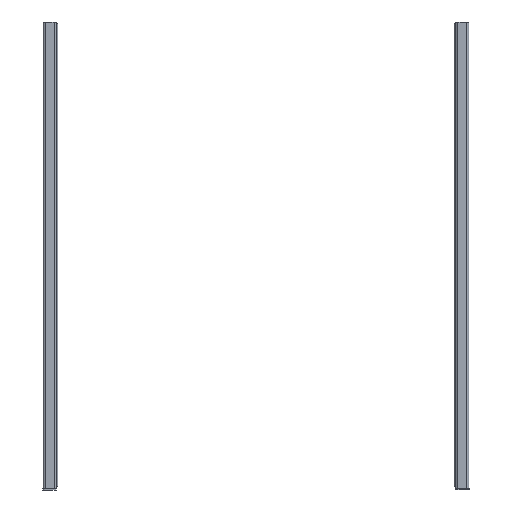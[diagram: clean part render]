
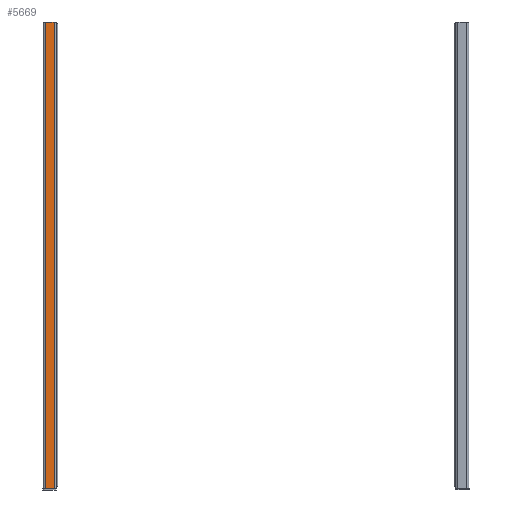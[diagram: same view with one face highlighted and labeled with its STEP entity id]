
A CAD part, front view. The second image highlights one B-rep face of the part: STEP entity #5669.
In plain terms, the highlighted planar face has unit normal (0, -1, 0).
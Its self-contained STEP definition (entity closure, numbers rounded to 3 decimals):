
#182=PLANE('',#6170);
#379=FACE_OUTER_BOUND('',#678,.T.);
#678=EDGE_LOOP('',(#4033,#4034,#4035,#4036));
#1100=LINE('',#8679,#1669);
#1101=LINE('',#8682,#1670);
#1102=LINE('',#8684,#1671);
#1103=LINE('',#8685,#1672);
#1669=VECTOR('',#7019,10.);
#1670=VECTOR('',#7022,10.);
#1671=VECTOR('',#7023,10.);
#1672=VECTOR('',#7024,10.);
#2458=VERTEX_POINT('',#8673);
#2460=VERTEX_POINT('',#8677);
#2461=VERTEX_POINT('',#8681);
#2462=VERTEX_POINT('',#8683);
#3078=EDGE_CURVE('',#2458,#2460,#1100,.T.);
#3079=EDGE_CURVE('',#2461,#2460,#1101,.T.);
#3080=EDGE_CURVE('',#2461,#2462,#1102,.T.);
#3081=EDGE_CURVE('',#2458,#2462,#1103,.T.);
#4033=ORIENTED_EDGE('',*,*,#3078,.T.);
#4034=ORIENTED_EDGE('',*,*,#3079,.F.);
#4035=ORIENTED_EDGE('',*,*,#3080,.T.);
#4036=ORIENTED_EDGE('',*,*,#3081,.F.);
#5669=ADVANCED_FACE('',(#379),#182,.T.);
#6170=AXIS2_PLACEMENT_3D('',#8680,#7020,#7021);
#7019=DIRECTION('',(0.,0.,1.));
#7020=DIRECTION('center_axis',(0.,-1.,0.));
#7021=DIRECTION('ref_axis',(-1.,0.,0.));
#7022=DIRECTION('',(1.,0.,0.));
#7023=DIRECTION('',(0.,0.,-1.));
#7024=DIRECTION('',(-1.,0.,0.));
#8673=CARTESIAN_POINT('',(9.5,-22.,-398.5));
#8677=CARTESIAN_POINT('',(9.5,-22.,0.));
#8679=CARTESIAN_POINT('',(9.5,-22.,0.));
#8680=CARTESIAN_POINT('Origin',(11.5,-22.,0.));
#8681=CARTESIAN_POINT('',(2.,-22.,0.));
#8682=CARTESIAN_POINT('',(0.,-22.,0.));
#8683=CARTESIAN_POINT('',(2.,-22.,-398.5));
#8684=CARTESIAN_POINT('',(2.,-22.,0.));
#8685=CARTESIAN_POINT('',(0.,-22.,-398.5));
